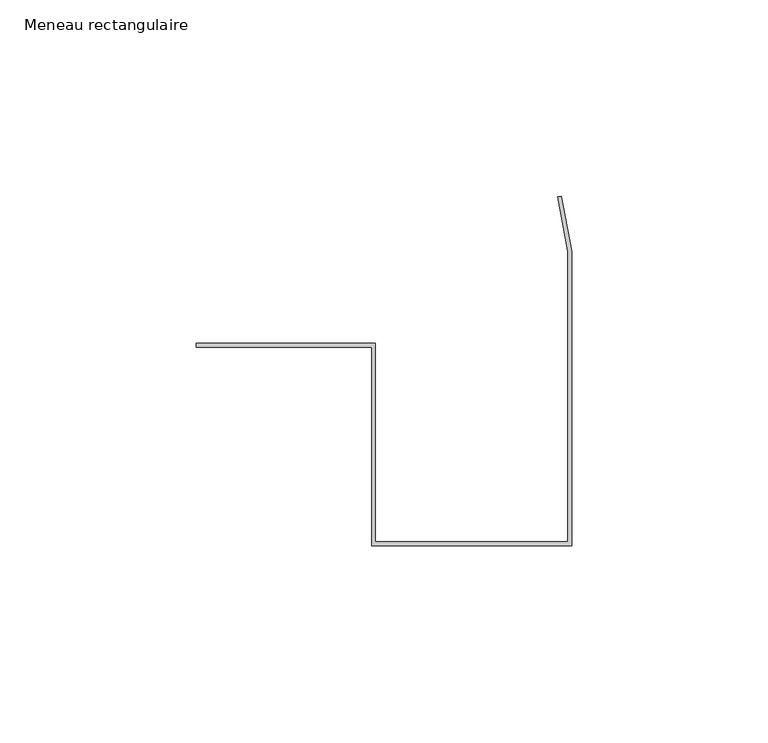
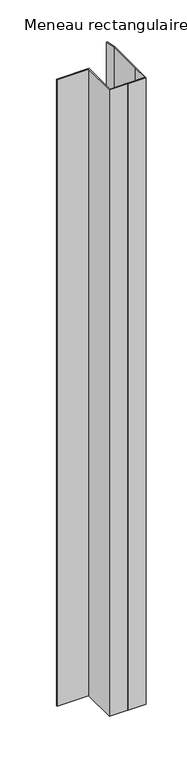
"""IFC4 building model written with IfcOpenShell, lengths in millimetres: member geometry, Meneau rectangulaire : Jonction contre mur Gauche H."""

import ifcopenshell
import ifcopenshell.guid

model = None  # the IFC model being written
_history = None  # IfcOwnerHistory: only IFC2X3 demands one
_inside = {}  # id of a spatial element -> (the spatial element, [elements in it])
_under = {}  # id of a project, library or spatial element -> (it, [spatial elements below it])
_declared = {}  # id of a project -> (the project, [libraries it declares])
_typed = {}  # id of a type object -> (the type object, [elements of that type])
_made_of = {}  # id of a material, layer set ... -> (it, [elements and type objects made of it])


def new_model(schema):
    """Start an empty IFC model of exactly this schema.

    Asked for "IFC4X3", IfcOpenShell would pick the latest addendum, in which some entities
    have other attributes; the version numbers below select the first issue.
    IFC2X3 requires an IfcOwnerHistory on every rooted entity: one is made here for all.
    """
    global model, _history
    if schema == "IFC4X3":
        model = ifcopenshell.file(schema_version=(4, 3, 0, 0))
    else:
        model = ifcopenshell.file(schema=schema)
    _inside.clear()
    _under.clear()
    _declared.clear()
    _typed.clear()
    _made_of.clear()
    _history = None
    if model.schema == "IFC2X3":
        org = make("IfcOrganization", Name="unknown")
        user = make(
            "IfcPersonAndOrganization",
            ThePerson=make("IfcPerson", FamilyName="unknown"),
            TheOrganization=org,
        )
        app = make(
            "IfcApplication",
            ApplicationDeveloper=org,
            Version="unknown",
            ApplicationFullName="unknown",
            ApplicationIdentifier="unknown",
        )
        _history = make(
            "IfcOwnerHistory",
            OwningUser=user,
            OwningApplication=app,
            ChangeAction="ADDED",
            CreationDate=0,
        )
    return model


def make(cls, **values):
    """One entity of the class cls with the attributes given. An attribute that is None is left unset."""
    return model.create_entity(
        cls, **{name: value for name, value in values.items() if value is not None}
    )


def rooted(cls, **values):
    """An entity with a GlobalId (a new one), such as an element, a storey or a relation."""
    return make(cls, GlobalId=ifcopenshell.guid.new(), OwnerHistory=_history, **values)


def si_unit(unit_type, name, prefix=None):
    """IfcSIUnit, for example si_unit("LENGTHUNIT", "METRE", prefix="MILLI")."""
    return make("IfcSIUnit", UnitType=unit_type, Prefix=prefix, Name=name)


def assignment(units):
    """IfcUnitAssignment: the units of a project."""
    return None if units is None else make("IfcUnitAssignment", Units=units)


def point(xyz):
    """IfcCartesianPoint."""
    return None if xyz is None else make("IfcCartesianPoint", Coordinates=xyz)


def direction(xyz):
    """IfcDirection."""
    return None if xyz is None else make("IfcDirection", DirectionRatios=xyz)


def frame(location, z_axis=None, x_axis=None):
    """IfcAxis2Placement3D, a coordinate frame: its origin and axes. An axis left out is left unset."""
    return make(
        "IfcAxis2Placement3D",
        Location=point(location),
        Axis=direction(z_axis),
        RefDirection=direction(x_axis),
    )


def origin():
    """The frame at (0, 0, 0) with its axes left unset."""
    return frame((0.0, 0.0, 0.0))


def place(relative_to, where):
    """IfcLocalPlacement: puts the frame where relative to a parent placement (None: the world)."""
    return make(
        "IfcLocalPlacement", PlacementRelTo=relative_to, RelativePlacement=where
    )


def context(
    kind, dimensions, precision=None, world=None, true_north=None, identifier=None
):
    """IfcGeometricRepresentationContext, for example the 3D "Model" context."""
    return make(
        "IfcGeometricRepresentationContext",
        ContextIdentifier=identifier,
        ContextType=kind,
        CoordinateSpaceDimension=dimensions,
        Precision=precision,
        WorldCoordinateSystem=world,
        TrueNorth=true_north,
    )


def project(units=None, contexts=None):
    """IfcProject with its units and contexts."""
    return rooted(
        "IfcProject",
        Name="project",
        RepresentationContexts=contexts,
        UnitsInContext=assignment(units),
    )


def spatial(cls, under=None, at=None, **own):
    """A site, building, storey or space (cls), placed at a placement, below another one or the project."""
    s = rooted(cls, ObjectPlacement=at, **own)
    if under is not None:
        _under.setdefault(under.id(), (under, []))[1].append(s)
    return s


def polyline(points):
    """IfcPolyline through the points."""
    return make("IfcPolyline", Points=[point(p) for p in points])


def outline(outer, holes=None, kind="AREA"):
    """IfcArbitraryClosedProfileDef: a profile drawn as a closed curve; with holes, ...WithVoids."""
    if holes is None:
        return make("IfcArbitraryClosedProfileDef", ProfileType=kind, OuterCurve=outer)
    return make(
        "IfcArbitraryProfileDefWithVoids",
        ProfileType=kind,
        OuterCurve=outer,
        InnerCurves=holes,
    )


def extrude(swept, where, along, depth):
    """IfcExtrudedAreaSolid: the profile swept, set in the frame where, extruded along a direction by depth."""
    return make(
        "IfcExtrudedAreaSolid",
        SweptArea=swept,
        Position=where,
        ExtrudedDirection=direction(along),
        Depth=depth,
    )


def shape(context_of_items, identifier, shape_type, items):
    """IfcShapeRepresentation: the items that make up one representation, for example the "Body"."""
    return make(
        "IfcShapeRepresentation",
        ContextOfItems=context_of_items,
        RepresentationIdentifier=identifier,
        RepresentationType=shape_type,
        Items=items,
    )


def source(mapping_origin, context_of_items, identifier, shape_type, items):
    """IfcRepresentationMap: a shape defined once, which mapped items show again and again."""
    return make(
        "IfcRepresentationMap",
        MappingOrigin=mapping_origin,
        MappedRepresentation=shape(context_of_items, identifier, shape_type, items),
    )


def transform(
    local_origin,
    x_axis=None,
    y_axis=None,
    z_axis=None,
    scale=None,
    scale2=None,
    scale3=None,
    uniform=True,
):
    """IfcCartesianTransformationOperator3D, or its non-uniform kind. x_axis, y_axis, z_axis: its Axis1, 2, 3."""
    if uniform:
        return make(
            "IfcCartesianTransformationOperator3D",
            Axis1=direction(x_axis),
            Axis2=direction(y_axis),
            LocalOrigin=point(local_origin),
            Scale=scale,
            Axis3=direction(z_axis),
        )
    return make(
        "IfcCartesianTransformationOperator3DnonUniform",
        Axis1=direction(x_axis),
        Axis2=direction(y_axis),
        LocalOrigin=point(local_origin),
        Scale=scale,
        Axis3=direction(z_axis),
        Scale2=scale2,
        Scale3=scale3,
    )


def mapped(mapping_source, mapping_target):
    """IfcMappedItem: shows the shape of a source again, moved by a transform."""
    return make(
        "IfcMappedItem", MappingSource=mapping_source, MappingTarget=mapping_target
    )


def made_of(thing, what):
    """Note that an element or type object is made of a material, layer set ...; save() writes the relation."""
    if what is not None:
        _made_of.setdefault(what.id(), (what, []))[1].append(thing)
    return thing


def element(
    cls,
    number,
    at=None,
    inside=None,
    cuts=None,
    type_object=None,
    material=None,
    context=None,
    identifier="Body",
    shape_type=None,
    held_by="IfcProductDefinitionShape",
    body=None,
    shapes=None,
    **own,
):
    """One element of the class cls, such as IfcWall. Its Tag is "e" and its number.

    at: its placement. inside: the storey or other place that contains it. cuts: it is an
    opening in that element (IfcRelVoidsElement). A single representation is given by context,
    identifier, shape_type and body (its items); several are given by shapes. held_by: the class
    of the entity that holds the representations. save() writes the other relations.
    """
    e = rooted(cls, Tag="e%d" % number, ObjectPlacement=at, **own)
    if body is not None:
        shapes = [shape(context, identifier, shape_type, body)]
    if shapes is not None:
        e.Representation = make(held_by, Representations=shapes)
    if inside is not None:
        _inside.setdefault(inside.id(), (inside, []))[1].append(e)
    if cuts is not None:
        rooted(
            "IfcRelVoidsElement", RelatingBuildingElement=cuts, RelatedOpeningElement=e
        )
    if type_object is not None:
        _typed.setdefault(type_object.id(), (type_object, []))[1].append(e)
    return made_of(e, material)


def aggregate(whole, parts):
    """IfcRelAggregates: a whole, such as a stair, and the parts it consists of."""
    return rooted("IfcRelAggregates", RelatingObject=whole, RelatedObjects=parts)


def save(model, path):
    """Write the relations noted so far, then the file.

    IfcRelAggregates (storeys below a building ...), IfcRelContainedInSpatialStructure (elements
    in a storey), IfcRelDefinesByType, IfcRelAssociatesMaterial and IfcRelDeclares: one each for
    every whole, place, type object, material and project.
    """
    for whole, parts in _under.values():
        aggregate(whole, parts)
    for where, things in _inside.values():
        rooted(
            "IfcRelContainedInSpatialStructure",
            RelatedElements=things,
            RelatingStructure=where,
        )
    for kind, things in _typed.values():
        rooted("IfcRelDefinesByType", RelatedObjects=things, RelatingType=kind)
    for what, things in _made_of.values():
        rooted("IfcRelAssociatesMaterial", RelatedObjects=things, RelatingMaterial=what)
    for by, libraries in _declared.values():
        rooted("IfcRelDeclares", RelatingContext=by, RelatedDefinitions=libraries)
    model.write(path)


def meneau_rectangulaire_8405fecf(model_context):
    return source(origin(), model_context, "Body", "SweptSolid", [
        extrude(outline(polyline([(-1.0, 26.3950161), (-3.6043568, 40.2612876), (-2.6384309, 40.4427073), (0.0, 26.3950161), (0.0, -23.6049839), (0.0, -48.6049839), (-25.0, -48.6049839), (-26.0, -48.6049839), (-51.0, -48.6049839), (-51.0, 2.0), (-95.6686418, 2.0), (-95.6686418, 3.0), (-50.0, 3.0), (-50.0, -47.6049839), (-26.0, -47.6049839), (-25.0, -47.6049839), (-1.0, -47.6049839), (-1.0, -23.6049839), (-1.0, 26.3950161)])), frame((0.0, 0.0, -928.0), z_axis=(0.0, 0.0, 1.0), x_axis=(1.0, 0.0, 0.0)), (0.0, 0.0, 1.0), 928.0),
    ])


if __name__ == "__main__":
    model = new_model("IFC4")
    model_context = context("Model", 3, world=origin())
    ifc_project = project(units=[si_unit("LENGTHUNIT", "METRE", prefix="MILLI")], contexts=[model_context])
    site = spatial("IfcSite", under=ifc_project)
    building = spatial("IfcBuilding", under=site)
    placement = place(None, origin())
    meneau_rectangulaire_shape = meneau_rectangulaire_8405fecf(model_context)
    element("IfcMember", 1, ObjectType="Meneau rectangulaire : Jonction contre mur Gauche H", at=placement, inside=building, context=model_context, shape_type="MappedRepresentation", body=[
        mapped(meneau_rectangulaire_shape, transform((0.0, 0.0, 0.0), x_axis=(1.0, 0.0, 0.0), y_axis=(0.0, 1.0, 0.0), z_axis=(0.0, 0.0, 1.0))),
    ])
    save(model, "model.ifc")
